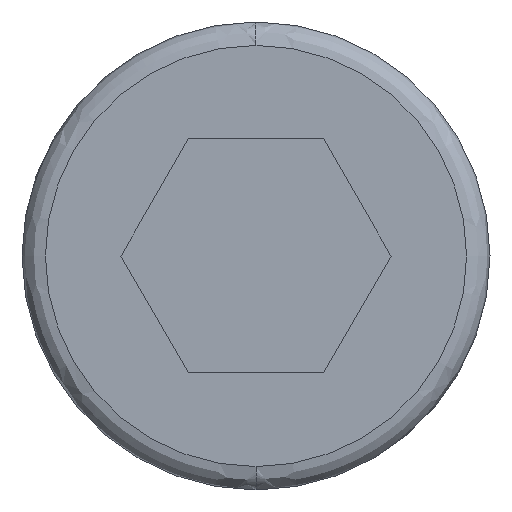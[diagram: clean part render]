
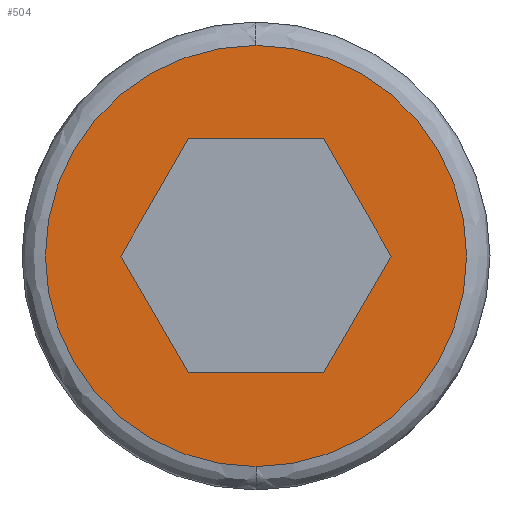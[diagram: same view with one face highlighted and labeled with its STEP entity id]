
A CAD part, left-side view. The second image highlights one B-rep face of the part: STEP entity #504.
In plain terms, the highlighted planar face has unit normal (-1, 0, 0).
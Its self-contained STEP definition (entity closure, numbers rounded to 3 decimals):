
#8 = ORIENTED_EDGE ( 'NONE', *, *, #823, .T. ) ;
#12 = LINE ( 'NONE', #350, #147 ) ;
#13 = ORIENTED_EDGE ( 'NONE', *, *, #522, .T. ) ;
#20 = ORIENTED_EDGE ( 'NONE', *, *, #511, .T. ) ;
#22 = DIRECTION ( 'NONE',  ( 1., 0., 0. ) ) ;
#52 = AXIS2_PLACEMENT_3D ( 'NONE', #622, #22, #295 ) ;
#60 = CARTESIAN_POINT ( 'NONE',  ( -56.4, -14.307, 33. ) ) ;
#70 = VERTEX_POINT ( 'NONE', #689 ) ;
#78 = VECTOR ( 'NONE', #416, 1000. ) ;
#91 = LINE ( 'NONE', #617, #257 ) ;
#98 = VERTEX_POINT ( 'NONE', #125 ) ;
#125 = CARTESIAN_POINT ( 'NONE',  ( -56.4, -18.637, 30.5 ) ) ;
#147 = VECTOR ( 'NONE', #280, 1000. ) ;
#148 = DIRECTION ( 'NONE',  ( 0., 1., 0. ) ) ;
#166 = PLANE ( 'NONE',  #549 ) ;
#184 = EDGE_CURVE ( 'NONE', #98, #792, #461, .T. ) ;
#185 = CARTESIAN_POINT ( 'NONE',  ( -56.4, -12.943, 30.638 ) ) ;
#201 = CIRCLE ( 'NONE', #52, 4.5 ) ;
#218 = DIRECTION ( 'NONE',  ( -1., 0., 0. ) ) ;
#244 = DIRECTION ( 'NONE',  ( 0., 1., 0. ) ) ;
#251 = VERTEX_POINT ( 'NONE', #735 ) ;
#257 = VECTOR ( 'NONE', #148, 1000. ) ;
#280 = DIRECTION ( 'NONE',  ( 0., 0.5, 0.866 ) ) ;
#286 = ORIENTED_EDGE ( 'NONE', *, *, #642, .F. ) ;
#295 = DIRECTION ( 'NONE',  ( 0., 1., 0. ) ) ;
#318 = DIRECTION ( 'NONE',  ( 0., -0.5, 0.866 ) ) ;
#319 = CIRCLE ( 'NONE', #796, 4.5 ) ;
#325 = EDGE_LOOP ( 'NONE', ( #13, #539, #666, #8, #498, #20 ) ) ;
#350 = CARTESIAN_POINT ( 'NONE',  ( -56.4, -13.665, 29.112 ) ) ;
#414 = DIRECTION ( 'NONE',  ( 0., 0.5, -0.866 ) ) ;
#416 = DIRECTION ( 'NONE',  ( 0., -1., 0. ) ) ;
#419 = VERTEX_POINT ( 'NONE', #762 ) ;
#421 = CARTESIAN_POINT ( 'NONE',  ( -56.4, -17.273, 32.862 ) ) ;
#428 = DIRECTION ( 'NONE',  ( 0., -0.5, -0.866 ) ) ;
#447 = VERTEX_POINT ( 'NONE', #626 ) ;
#461 = LINE ( 'NONE', #544, #721 ) ;
#462 = VERTEX_POINT ( 'NONE', #573 ) ;
#477 = LINE ( 'NONE', #808, #78 ) ;
#490 = CARTESIAN_POINT ( 'NONE',  ( -56.4, -13.5, 30.5 ) ) ;
#495 = LINE ( 'NONE', #421, #604 ) ;
#498 = ORIENTED_EDGE ( 'NONE', *, *, #580, .T. ) ;
#500 = CARTESIAN_POINT ( 'NONE',  ( -56.4, -15.75, 30.5 ) ) ;
#504 = ADVANCED_FACE ( 'NONE', ( #744, #547 ), #166, .T. ) ;
#511 = EDGE_CURVE ( 'NONE', #750, #419, #477, .T. ) ;
#522 = EDGE_CURVE ( 'NONE', #419, #98, #495, .T. ) ;
#534 = EDGE_CURVE ( 'NONE', #447, #462, #201, .T. ) ;
#539 = ORIENTED_EDGE ( 'NONE', *, *, #184, .T. ) ;
#544 = CARTESIAN_POINT ( 'NONE',  ( -56.4, -17.995, 29.388 ) ) ;
#547 = FACE_BOUND ( 'NONE', #325, .T. ) ;
#549 = AXIS2_PLACEMENT_3D ( 'NONE', #490, #218, #760 ) ;
#573 = CARTESIAN_POINT ( 'NONE',  ( -56.4, -15.75, 35. ) ) ;
#580 = EDGE_CURVE ( 'NONE', #251, #750, #783, .T. ) ;
#604 = VECTOR ( 'NONE', #428, 1000. ) ;
#607 = EDGE_LOOP ( 'NONE', ( #858, #286 ) ) ;
#617 = CARTESIAN_POINT ( 'NONE',  ( -56.4, -15.347, 28. ) ) ;
#622 = CARTESIAN_POINT ( 'NONE',  ( -56.4, -15.75, 30.5 ) ) ;
#626 = CARTESIAN_POINT ( 'NONE',  ( -56.4, -15.75, 26. ) ) ;
#642 = EDGE_CURVE ( 'NONE', #462, #447, #319, .T. ) ;
#666 = ORIENTED_EDGE ( 'NONE', *, *, #847, .T. ) ;
#679 = CARTESIAN_POINT ( 'NONE',  ( -56.4, -17.193, 28. ) ) ;
#689 = CARTESIAN_POINT ( 'NONE',  ( -56.4, -14.307, 28. ) ) ;
#721 = VECTOR ( 'NONE', #414, 1000. ) ;
#735 = CARTESIAN_POINT ( 'NONE',  ( -56.4, -12.863, 30.5 ) ) ;
#744 = FACE_OUTER_BOUND ( 'NONE', #607, .T. ) ;
#750 = VERTEX_POINT ( 'NONE', #60 ) ;
#760 = DIRECTION ( 'NONE',  ( 0., 0., 1. ) ) ;
#762 = CARTESIAN_POINT ( 'NONE',  ( -56.4, -17.193, 33. ) ) ;
#774 = DIRECTION ( 'NONE',  ( 1., 0., 0. ) ) ;
#783 = LINE ( 'NONE', #185, #835 ) ;
#792 = VERTEX_POINT ( 'NONE', #679 ) ;
#796 = AXIS2_PLACEMENT_3D ( 'NONE', #500, #774, #244 ) ;
#808 = CARTESIAN_POINT ( 'NONE',  ( -56.4, -13.903, 33. ) ) ;
#823 = EDGE_CURVE ( 'NONE', #70, #251, #12, .T. ) ;
#835 = VECTOR ( 'NONE', #318, 1000. ) ;
#847 = EDGE_CURVE ( 'NONE', #792, #70, #91, .T. ) ;
#858 = ORIENTED_EDGE ( 'NONE', *, *, #534, .F. ) ;
